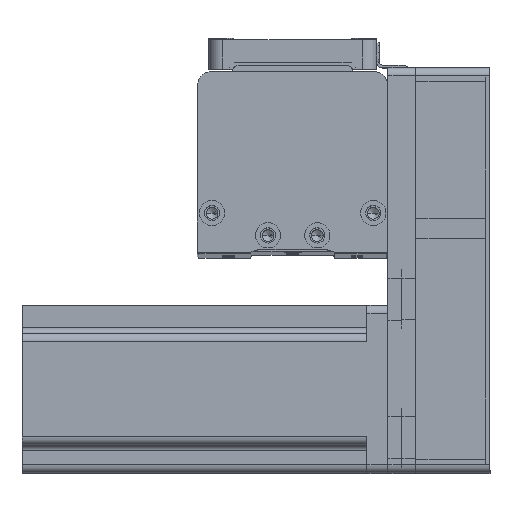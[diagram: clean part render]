
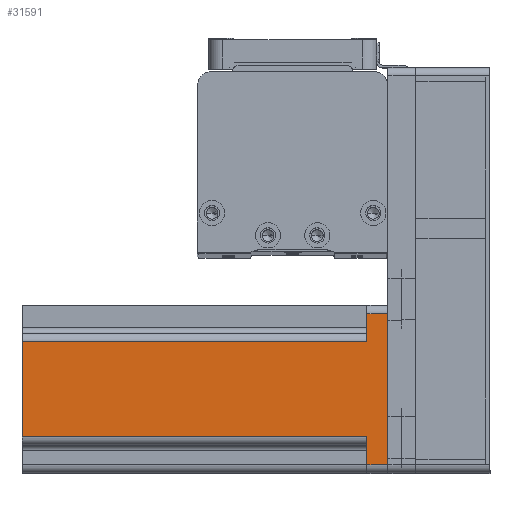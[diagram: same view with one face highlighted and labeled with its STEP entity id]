
A CAD part, top view. The second image highlights one B-rep face of the part: STEP entity #31591.
In plain terms, the highlighted planar face has unit normal (0, 0, 1) as drawn and (0, 1, 0) by its records, which use the part's own axes.
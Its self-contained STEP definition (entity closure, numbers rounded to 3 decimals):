
#226 = CARTESIAN_POINT ( 'NONE',  ( 30., 30., 0. ) ) ;
#845 = VECTOR ( 'NONE', #22523, 1000. ) ;
#1969 = CARTESIAN_POINT ( 'NONE',  ( 27., 30., 7.5 ) ) ;
#3759 = VERTEX_POINT ( 'NONE', #11502 ) ;
#3969 = VERTEX_POINT ( 'NONE', #1969 ) ;
#4876 = VERTEX_POINT ( 'NONE', #46465 ) ;
#5378 = CARTESIAN_POINT ( 'NONE',  ( 17., 30., 130.7 ) ) ;
#5614 = EDGE_CURVE ( 'NONE', #3969, #12945, #5718, .T. ) ;
#5718 = LINE ( 'NONE', #35443, #24183 ) ;
#7267 = VECTOR ( 'NONE', #24354, 1000. ) ;
#8127 = EDGE_CURVE ( 'NONE', #38065, #4876, #20318, .T. ) ;
#8586 = EDGE_CURVE ( 'NONE', #45287, #3759, #15613, .T. ) ;
#9103 = DIRECTION ( 'NONE',  ( 0., 0., -1. ) ) ;
#10291 = CARTESIAN_POINT ( 'NONE',  ( 17., 30., 7.5 ) ) ;
#11502 = CARTESIAN_POINT ( 'NONE',  ( -17., 30., 7.5 ) ) ;
#11900 = VECTOR ( 'NONE', #27233, 1000. ) ;
#12811 = ORIENTED_EDGE ( 'NONE', *, *, #21307, .T. ) ;
#12945 = VERTEX_POINT ( 'NONE', #10291 ) ;
#14094 = ORIENTED_EDGE ( 'NONE', *, *, #8127, .T. ) ;
#14467 = DIRECTION ( 'NONE',  ( 1., 0., 0. ) ) ;
#14924 = CARTESIAN_POINT ( 'NONE',  ( 30., 30., 130.7 ) ) ;
#15549 = CARTESIAN_POINT ( 'NONE',  ( 27., 30., 130.7 ) ) ;
#15613 = LINE ( 'NONE', #36609, #43917 ) ;
#15799 = LINE ( 'NONE', #15549, #44108 ) ;
#15857 = EDGE_LOOP ( 'NONE', ( #31095, #31940, #22692, #12811, #17669, #32961, #14094, #29532 ) ) ;
#16582 = VERTEX_POINT ( 'NONE', #23645 ) ;
#17168 = FACE_OUTER_BOUND ( 'NONE', #15857, .T. ) ;
#17669 = ORIENTED_EDGE ( 'NONE', *, *, #5614, .F. ) ;
#18206 = LINE ( 'NONE', #35477, #7267 ) ;
#18438 = VECTOR ( 'NONE', #9103, 1000. ) ;
#19846 = DIRECTION ( 'NONE',  ( 0., -1., 0. ) ) ;
#20318 = LINE ( 'NONE', #226, #38789 ) ;
#20404 = LINE ( 'NONE', #14924, #845 ) ;
#21307 = EDGE_CURVE ( 'NONE', #40410, #12945, #28220, .T. ) ;
#21716 = LINE ( 'NONE', #34666, #11900 ) ;
#22523 = DIRECTION ( 'NONE',  ( -1., 0., 0. ) ) ;
#22692 = ORIENTED_EDGE ( 'NONE', *, *, #46841, .F. ) ;
#23645 = CARTESIAN_POINT ( 'NONE',  ( -17., 30., 130.7 ) ) ;
#24183 = VECTOR ( 'NONE', #42861, 1000. ) ;
#24354 = DIRECTION ( 'NONE',  ( 0., 0., 1. ) ) ;
#26149 = CARTESIAN_POINT ( 'NONE',  ( -27., 30., 7.5 ) ) ;
#27112 = PLANE ( 'NONE',  #42683 ) ;
#27233 = DIRECTION ( 'NONE',  ( 0., 0., 1. ) ) ;
#28220 = LINE ( 'NONE', #5378, #18438 ) ;
#29532 = ORIENTED_EDGE ( 'NONE', *, *, #41044, .T. ) ;
#31095 = ORIENTED_EDGE ( 'NONE', *, *, #8586, .T. ) ;
#31591 = ADVANCED_FACE ( 'NONE', ( #17168 ), #27112, .F. ) ;
#31940 = ORIENTED_EDGE ( 'NONE', *, *, #36986, .T. ) ;
#32961 = ORIENTED_EDGE ( 'NONE', *, *, #46877, .T. ) ;
#34666 = CARTESIAN_POINT ( 'NONE',  ( -17., 30., 130.7 ) ) ;
#35443 = CARTESIAN_POINT ( 'NONE',  ( 20., 30., 7.5 ) ) ;
#35477 = CARTESIAN_POINT ( 'NONE',  ( -27., 30., 130.7 ) ) ;
#36609 = CARTESIAN_POINT ( 'NONE',  ( -20., 30., 7.5 ) ) ;
#36986 = EDGE_CURVE ( 'NONE', #3759, #16582, #21716, .T. ) ;
#38065 = VERTEX_POINT ( 'NONE', #38576 ) ;
#38576 = CARTESIAN_POINT ( 'NONE',  ( 27., 30., 0. ) ) ;
#38789 = VECTOR ( 'NONE', #44425, 1000. ) ;
#38943 = CARTESIAN_POINT ( 'NONE',  ( 17., 30., 130.7 ) ) ;
#40410 = VERTEX_POINT ( 'NONE', #38943 ) ;
#41044 = EDGE_CURVE ( 'NONE', #4876, #45287, #18206, .T. ) ;
#41378 = DIRECTION ( 'NONE',  ( 0., 0., -1. ) ) ;
#41972 = CARTESIAN_POINT ( 'NONE',  ( 30., 30., 130.7 ) ) ;
#42683 = AXIS2_PLACEMENT_3D ( 'NONE', #41972, #19846, #45706 ) ;
#42861 = DIRECTION ( 'NONE',  ( -1., 0., 0. ) ) ;
#43917 = VECTOR ( 'NONE', #14467, 1000. ) ;
#44108 = VECTOR ( 'NONE', #41378, 1000. ) ;
#44425 = DIRECTION ( 'NONE',  ( -1., 0., 0. ) ) ;
#45287 = VERTEX_POINT ( 'NONE', #26149 ) ;
#45706 = DIRECTION ( 'NONE',  ( 1., 0., 0. ) ) ;
#46465 = CARTESIAN_POINT ( 'NONE',  ( -27., 30., 0. ) ) ;
#46841 = EDGE_CURVE ( 'NONE', #40410, #16582, #20404, .T. ) ;
#46877 = EDGE_CURVE ( 'NONE', #3969, #38065, #15799, .T. ) ;
